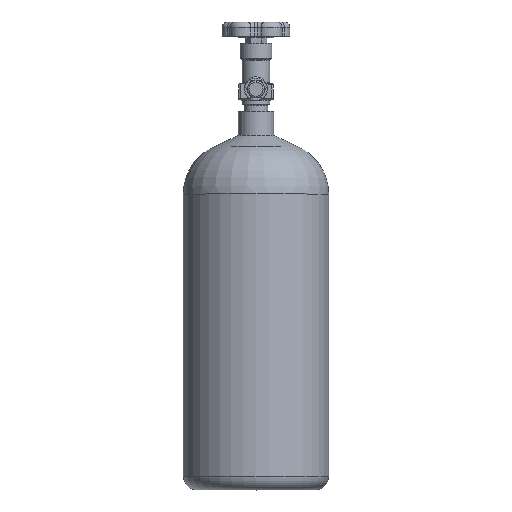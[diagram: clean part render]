
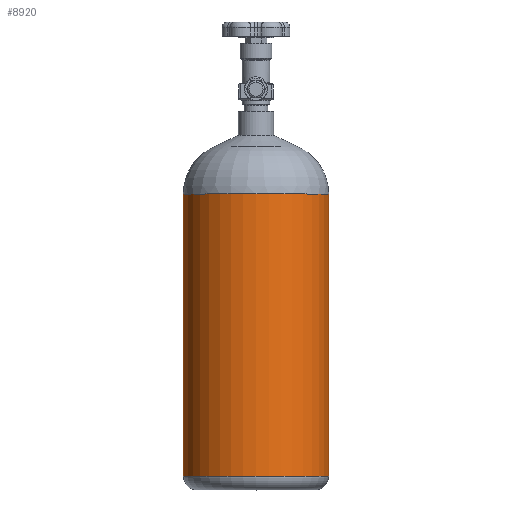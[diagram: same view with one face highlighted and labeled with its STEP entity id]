
A CAD part, top view. The second image highlights one B-rep face of the part: STEP entity #8920.
In plain terms, the highlighted cylindrical face has radius 67.056 mm (diameter 134.112 mm), a partial arc.
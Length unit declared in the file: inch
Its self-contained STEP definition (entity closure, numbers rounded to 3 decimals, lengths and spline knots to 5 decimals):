
#160 = CARTESIAN_POINT ( 'NONE',  ( 0., 0.5, 0. ) ) ;
#282 = CIRCLE ( 'NONE', #9294, 2.64 ) ;
#587 = ORIENTED_EDGE ( 'NONE', *, *, #6066, .T. ) ;
#667 = CARTESIAN_POINT ( 'NONE',  ( 2.64, 10.74848, 0. ) ) ;
#717 = LINE ( 'NONE', #4383, #3886 ) ;
#901 = DIRECTION ( 'NONE',  ( -1., 0., 0. ) ) ;
#1214 = ORIENTED_EDGE ( 'NONE', *, *, #8521, .F. ) ;
#1818 = AXIS2_PLACEMENT_3D ( 'NONE', #160, #8473, #901 ) ;
#1869 = VERTEX_POINT ( 'NONE', #667 ) ;
#2383 = CARTESIAN_POINT ( 'NONE',  ( 2.64, 13.75, 0. ) ) ;
#3735 = CIRCLE ( 'NONE', #1818, 2.64 ) ;
#3767 = CARTESIAN_POINT ( 'NONE',  ( 0., 10.74848, 0. ) ) ;
#3886 = VECTOR ( 'NONE', #6705, 39.37008 ) ;
#4328 = EDGE_CURVE ( 'NONE', #5053, #1869, #6708, .T. ) ;
#4383 = CARTESIAN_POINT ( 'NONE',  ( -2.64, 13.75, 0. ) ) ;
#4414 = CARTESIAN_POINT ( 'NONE',  ( -2.64, 0.5, 0. ) ) ;
#4487 = CARTESIAN_POINT ( 'NONE',  ( 0., 13.75, 0. ) ) ;
#4599 = VERTEX_POINT ( 'NONE', #4414 ) ;
#5037 = EDGE_LOOP ( 'NONE', ( #587, #9442, #1214, #6074 ) ) ;
#5053 = VERTEX_POINT ( 'NONE', #6584 ) ;
#5419 = CYLINDRICAL_SURFACE ( 'NONE', #9782, 2.64 ) ;
#5491 = CARTESIAN_POINT ( 'NONE',  ( -2.64, 10.74848, 0. ) ) ;
#5766 = VECTOR ( 'NONE', #7418, 39.37008 ) ;
#6066 = EDGE_CURVE ( 'NONE', #4599, #5053, #3735, .T. ) ;
#6074 = ORIENTED_EDGE ( 'NONE', *, *, #6624, .F. ) ;
#6166 = FACE_OUTER_BOUND ( 'NONE', #5037, .T. ) ;
#6584 = CARTESIAN_POINT ( 'NONE',  ( 2.64, 0.5, 0. ) ) ;
#6624 = EDGE_CURVE ( 'NONE', #4599, #9776, #717, .T. ) ;
#6705 = DIRECTION ( 'NONE',  ( 0., 1., 0. ) ) ;
#6708 = LINE ( 'NONE', #2383, #5766 ) ;
#6784 = DIRECTION ( 'NONE',  ( 0., 1., 0. ) ) ;
#6819 = DIRECTION ( 'NONE',  ( 0., 1., 0. ) ) ;
#7418 = DIRECTION ( 'NONE',  ( 0., 1., 0. ) ) ;
#8360 = DIRECTION ( 'NONE',  ( -1., 0., 0. ) ) ;
#8473 = DIRECTION ( 'NONE',  ( 0., 1., 0. ) ) ;
#8514 = DIRECTION ( 'NONE',  ( -1., 0., 0. ) ) ;
#8521 = EDGE_CURVE ( 'NONE', #9776, #1869, #282, .T. ) ;
#8920 = ADVANCED_FACE ( 'NONE', ( #6166 ), #5419, .T. ) ;
#9294 = AXIS2_PLACEMENT_3D ( 'NONE', #3767, #6784, #8514 ) ;
#9442 = ORIENTED_EDGE ( 'NONE', *, *, #4328, .T. ) ;
#9776 = VERTEX_POINT ( 'NONE', #5491 ) ;
#9782 = AXIS2_PLACEMENT_3D ( 'NONE', #4487, #6819, #8360 ) ;
